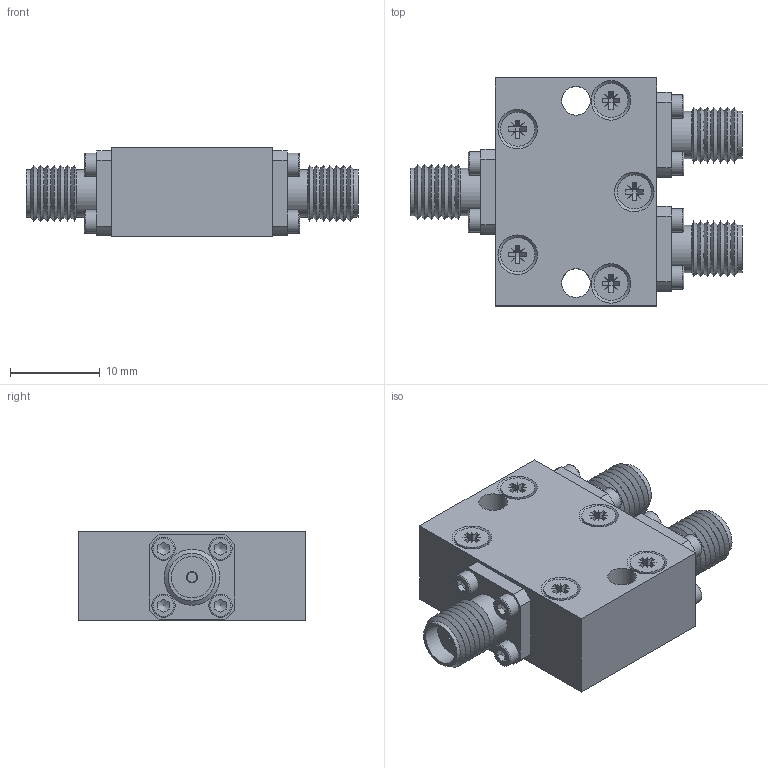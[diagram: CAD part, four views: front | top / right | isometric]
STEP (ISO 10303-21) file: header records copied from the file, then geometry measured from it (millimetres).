
FILE_DESCRIPTION(/* description */ ('Unknown'),/* implementation_level */ '2;1');
FILE_NAME(/* name */ 'DETI_MICROWAVE_2-WAY_POWER_DIVIDER_011195_STEP',/* time_stamp */ '2021-06-30T14:31:16+02:00',/* author */ ('ALG'),/* organization */ ('DETI'),/* preprocessor_version */ 'ST-DEVELOPER v16.7',/* originating_system */ 'Solid Edge',/* authorisation */ 'Unknown');
FILE_SCHEMA (('AUTOMOTIVE_DESIGN {1 0 10303 214 3 1 1}'));
Length unit declared in the file: millimetre
Products named in the file (1): DI-2-27000-310002
Bounding box: 37 x 25.4 x 10 mm (x, y, z)
Volume: 5280.2 mm3; surface area: 3833.1 mm2
Topology: 1 solids, 31 shells, 516 faces, 1266 edges, 834 vertices
Faces by surface type: plane 314, cylinder 102, cone 83, torus 17
Full cylindrical faces by diameter (mm): 1.1 x3, 1.221 x12, 1.27 x6, 1.4 x12, 1.8 x12, 2 x5, 2.2 x5, 2.6 x12, 3.2 x2, 3.8 x5, 4.1 x3, 4.6 x3, 5.3 x6
Entity records: 17032 total; most frequent: CARTESIAN_POINT 2531, DIRECTION 2182, ORIENTED_EDGE 1936, EDGE_CURVE 968, FACE_BOUND 790, AXIS2_PLACEMENT_3D 779, EDGE_LOOP 766, VERTEX_POINT 748
